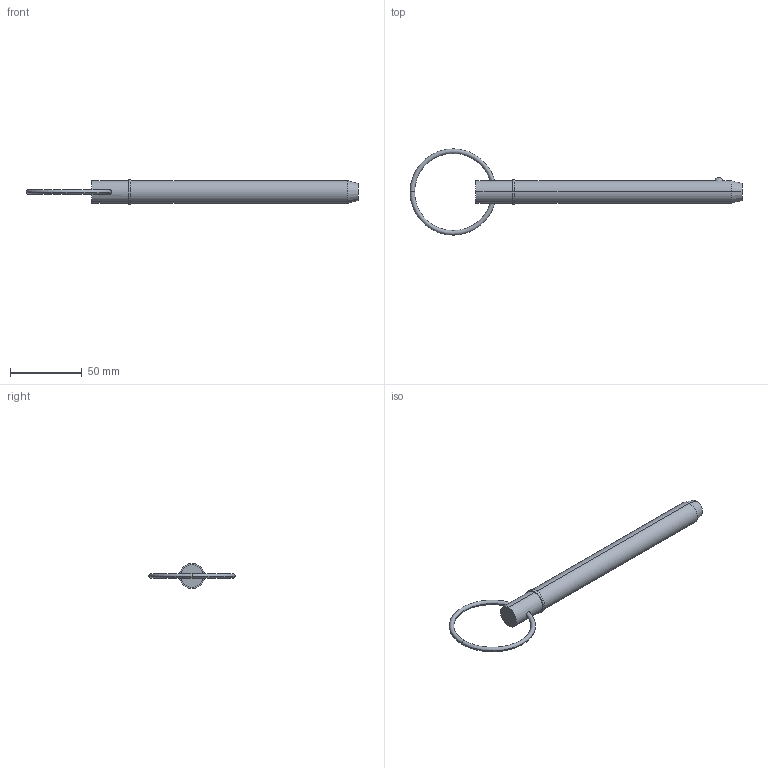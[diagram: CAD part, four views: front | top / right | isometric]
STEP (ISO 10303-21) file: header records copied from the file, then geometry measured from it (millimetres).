
FILE_DESCRIPTION (( 'STEP AP203' ), '1' );
FILE_NAME ('33016.W6255.step', '2024-11-07T11:13:26', ( '' ), ( '' ), 'SwSTEP 2.0', 'SolidWorks 2019', '' );
FILE_SCHEMA (( 'CONFIG_CONTROL_DESIGN' ));
Length unit declared in the file: millimetre
Products named in the file (3): Part1_33016.W6255; Part2_33016.W6255; 33016.W6255
Assembly tree (2 placements, depth 2):
  33016.W6255
    Part1_33016.W6255
    Part2_33016.W6255
Bounding box: 232.08 x 60.33 x 17.47 mm (x, y, z)
Volume: 37841 mm3; surface area: 11629.1 mm2
Topology: 2 solids, 2 shells, 22 faces, 43 edges, 26 vertices
Faces by surface type: torus 8, cylinder 6, plane 4, sphere 2, cone 2
Entity records: 1047 total; most frequent: CARTESIAN_POINT 270, DIRECTION 120, ORIENTED_EDGE 86, AXIS2_PLACEMENT_3D 56, EDGE_CURVE 43, CIRCLE 29, EDGE_LOOP 27, VERTEX_POINT 26
